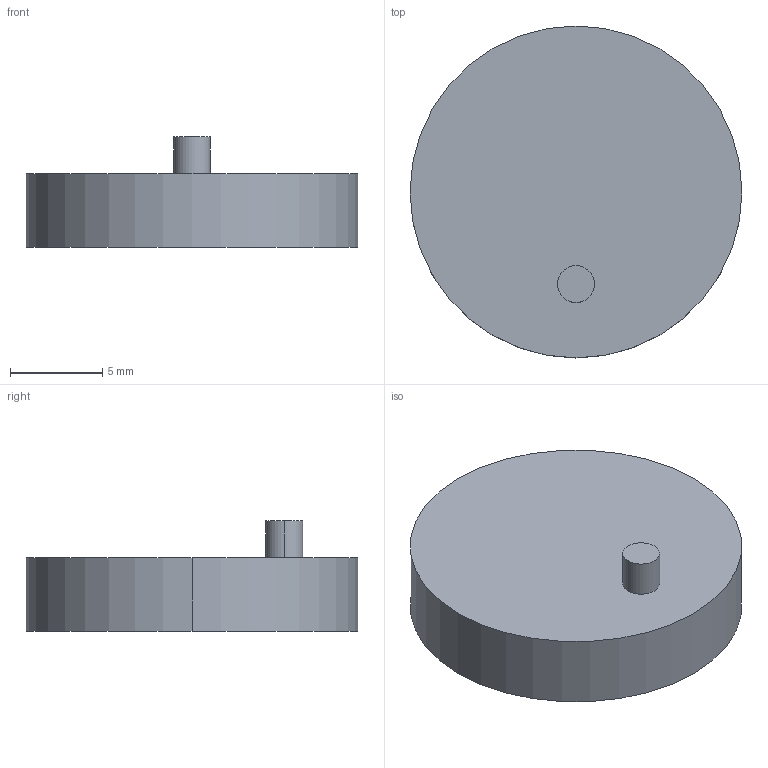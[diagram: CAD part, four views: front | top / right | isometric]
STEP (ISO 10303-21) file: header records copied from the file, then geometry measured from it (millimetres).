
FILE_DESCRIPTION (( 'STEP AP203' ), '1' );
FILE_NAME ('Roue_Défaut_sldprt.STEP', '2025-03-05T11:20:06', ( '' ), ( '' ), 'SwSTEP 2.0', 'SolidWorks 2023', '' );
FILE_SCHEMA (( 'CONFIG_CONTROL_DESIGN' ));
Length unit declared in the file: millimetre
Products named in the file (1): Roue_Défaut_sldprt
Bounding box: 18 x 18 x 6 mm (x, y, z)
Volume: 1024.2 mm3; surface area: 747.7 mm2
Topology: 1 solids, 1 shells, 7 faces, 12 edges, 8 vertices
Faces by surface type: cylinder 4, plane 3
Entity records: 251 total; most frequent: DIRECTION 36, CARTESIAN_POINT 28, ORIENTED_EDGE 24, AXIS2_PLACEMENT_3D 16, EDGE_CURVE 12, CIRCLE 8, EDGE_LOOP 8, PERSON_AND_ORGANIZATION 8
